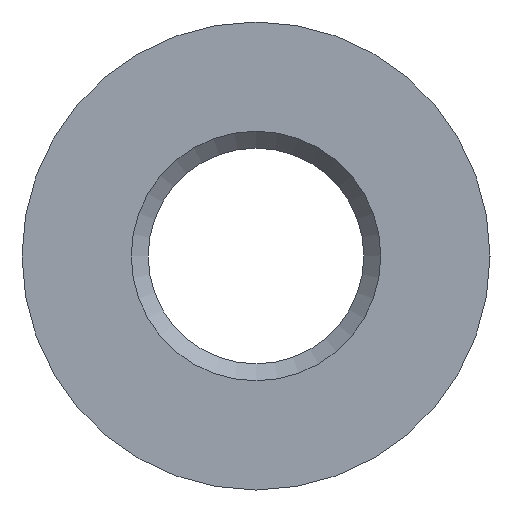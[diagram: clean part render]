
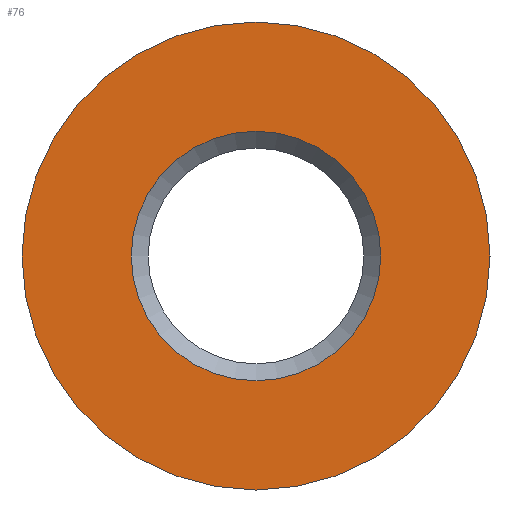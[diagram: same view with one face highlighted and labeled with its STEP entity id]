
A CAD part, front view. The second image highlights one B-rep face of the part: STEP entity #76.
In plain terms, the highlighted planar face has unit normal (0, -1, 0).
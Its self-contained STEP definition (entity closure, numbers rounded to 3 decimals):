
#76 = ADVANCED_FACE( '', ( #97, #98 ), #99, .F. );
#97 = FACE_BOUND( '', #142, .T. );
#98 = FACE_OUTER_BOUND( '', #143, .T. );
#99 = PLANE( '', #144 );
#142 = EDGE_LOOP( '', ( #193 ) );
#143 = EDGE_LOOP( '', ( #194 ) );
#144 = AXIS2_PLACEMENT_3D( '', #195, #196, #197 );
#193 = ORIENTED_EDGE( '', *, *, #319, .F. );
#194 = ORIENTED_EDGE( '', *, *, #320, .T. );
#195 = CARTESIAN_POINT( '', ( 22.5, 0., 0. ) );
#196 = DIRECTION( '', ( 0., 1., 0. ) );
#197 = DIRECTION( '', ( -1., 0., 0. ) );
#319 = EDGE_CURVE( '', #360, #360, #361, .T. );
#320 = EDGE_CURVE( '', #362, #362, #363, .T. );
#360 = VERTEX_POINT( '', #437 );
#361 = CIRCLE( '', #438, 12. );
#362 = VERTEX_POINT( '', #439 );
#363 = CIRCLE( '', #440, 22.5 );
#437 = CARTESIAN_POINT( '', ( 0., 0., -12. ) );
#438 = AXIS2_PLACEMENT_3D( '', #577, #578, #579 );
#439 = CARTESIAN_POINT( '', ( 22.5, 0., 0. ) );
#440 = AXIS2_PLACEMENT_3D( '', #580, #581, #582 );
#577 = CARTESIAN_POINT( '', ( 0., 0., 0. ) );
#578 = DIRECTION( '', ( 0., -1., 0. ) );
#579 = DIRECTION( '', ( 0., 0., -1. ) );
#580 = CARTESIAN_POINT( '', ( 0., 0., 0. ) );
#581 = DIRECTION( '', ( 0., -1., 0. ) );
#582 = DIRECTION( '', ( 1., 0., 0. ) );
